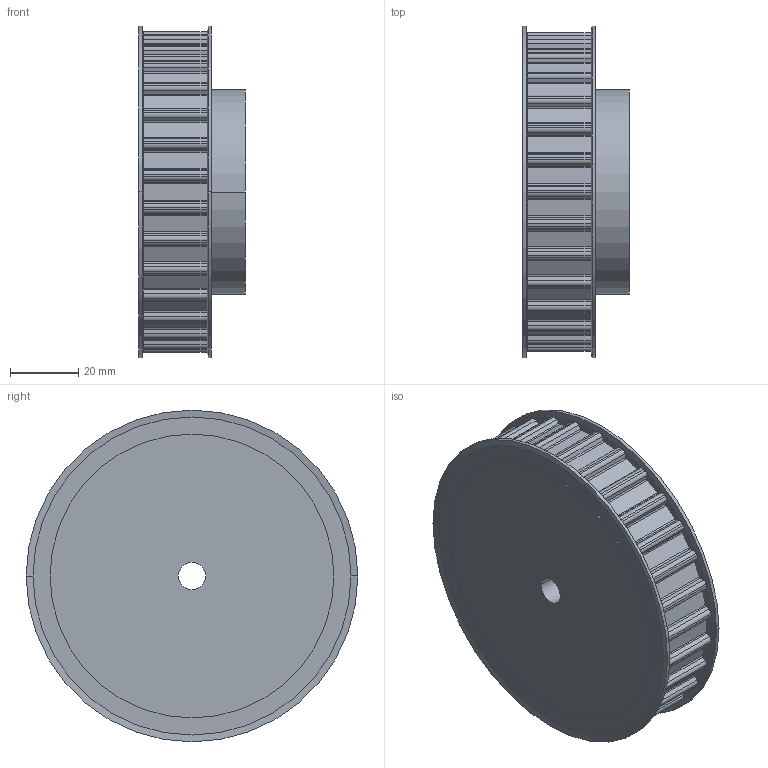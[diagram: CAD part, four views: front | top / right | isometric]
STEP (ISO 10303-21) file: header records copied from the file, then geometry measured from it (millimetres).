
FILE_DESCRIPTION( ( '' ), '1' );
FILE_NAME( 'C:/Users/Stangenbergd/Documents/CAD_Step/1/16823000.stp', '2021-10-19T09:44:13', ( '' ), ( '' ), ' ', ' ', ' ' );
FILE_SCHEMA( ( 'CONFIG_CONTROL_DESIGN' ) );
Length unit declared in the file: millimetre
Products named in the file (1): 1
Bounding box: 31.13 x 97 x 97 mm (x, y, z)
Volume: 163505.5 mm3; surface area: 26782.8 mm2
Topology: 1 solids, 1 shells, 385 faces, 1012 edges, 632 vertices
Faces by surface type: plane 215, cylinder 162, cone 8
Entity records: 12062 total; most frequent: DIRECTION 2356, CARTESIAN_POINT 2030, ORIENTED_EDGE 2024, EDGE_CURVE 1012, AXIS2_PLACEMENT_3D 958, VERTEX_POINT 632, CIRCLE 572, LINE 440
